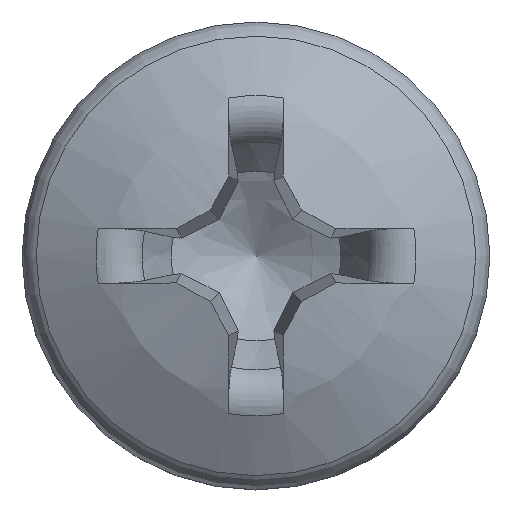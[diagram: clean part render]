
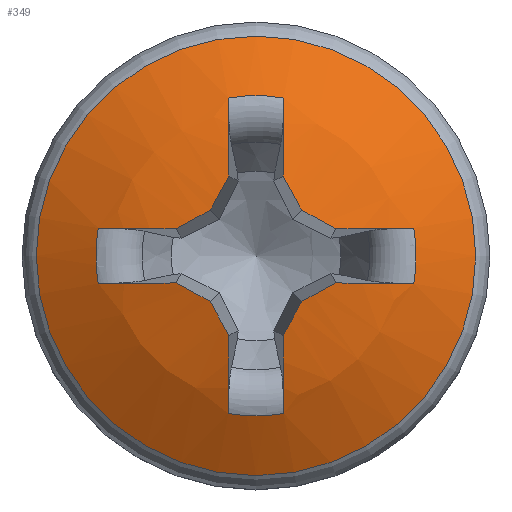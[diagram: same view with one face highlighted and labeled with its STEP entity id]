
A CAD part, top view. The second image highlights one B-rep face of the part: STEP entity #349.
In plain terms, the highlighted spherical face has radius 9.043 mm.
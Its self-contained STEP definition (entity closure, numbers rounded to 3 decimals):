
#312=SPHERICAL_SURFACE('',#1890,9.043);
#323=FACE_BOUND('',#580,.T.);
#324=FACE_BOUND('',#581,.T.);
#349=ADVANCED_FACE('',(#323,#324),#312,.T.);
#580=EDGE_LOOP('',(#787));
#581=EDGE_LOOP('',(#788,#789,#790,#791,#792,#793,#794,#795,#796,#797,#798,
#799,#800,#801,#802,#803,#804,#805,#806,#807));
#706=CIRCLE('',#1869,4.932);
#707=CIRCLE('',#1870,9.04);
#708=CIRCLE('',#1871,3.596);
#709=CIRCLE('',#1872,9.04);
#710=CIRCLE('',#1873,9.03);
#711=CIRCLE('',#1874,9.03);
#712=CIRCLE('',#1875,9.04);
#713=CIRCLE('',#1876,3.596);
#714=CIRCLE('',#1877,9.04);
#715=CIRCLE('',#1878,9.03);
#716=CIRCLE('',#1879,9.03);
#717=CIRCLE('',#1880,9.04);
#718=CIRCLE('',#1881,3.596);
#719=CIRCLE('',#1882,9.04);
#720=CIRCLE('',#1883,9.03);
#721=CIRCLE('',#1884,9.03);
#722=CIRCLE('',#1885,9.04);
#723=CIRCLE('',#1886,3.596);
#724=CIRCLE('',#1887,9.04);
#725=CIRCLE('',#1888,9.03);
#726=CIRCLE('',#1889,9.03);
#787=ORIENTED_EDGE('',*,*,#1491,.T.);
#788=ORIENTED_EDGE('',*,*,#1492,.F.);
#789=ORIENTED_EDGE('',*,*,#1493,.T.);
#790=ORIENTED_EDGE('',*,*,#1494,.F.);
#791=ORIENTED_EDGE('',*,*,#1495,.F.);
#792=ORIENTED_EDGE('',*,*,#1496,.F.);
#793=ORIENTED_EDGE('',*,*,#1497,.F.);
#794=ORIENTED_EDGE('',*,*,#1498,.T.);
#795=ORIENTED_EDGE('',*,*,#1499,.F.);
#796=ORIENTED_EDGE('',*,*,#1500,.F.);
#797=ORIENTED_EDGE('',*,*,#1501,.F.);
#798=ORIENTED_EDGE('',*,*,#1502,.F.);
#799=ORIENTED_EDGE('',*,*,#1503,.T.);
#800=ORIENTED_EDGE('',*,*,#1504,.F.);
#801=ORIENTED_EDGE('',*,*,#1505,.F.);
#802=ORIENTED_EDGE('',*,*,#1506,.F.);
#803=ORIENTED_EDGE('',*,*,#1507,.F.);
#804=ORIENTED_EDGE('',*,*,#1508,.T.);
#805=ORIENTED_EDGE('',*,*,#1509,.F.);
#806=ORIENTED_EDGE('',*,*,#1510,.F.);
#807=ORIENTED_EDGE('',*,*,#1511,.F.);
#1325=VERTEX_POINT('',#3994);
#1326=VERTEX_POINT('',#3996);
#1327=VERTEX_POINT('',#3997);
#1328=VERTEX_POINT('',#3999);
#1329=VERTEX_POINT('',#4001);
#1330=VERTEX_POINT('',#4003);
#1331=VERTEX_POINT('',#4005);
#1332=VERTEX_POINT('',#4007);
#1333=VERTEX_POINT('',#4009);
#1334=VERTEX_POINT('',#4011);
#1335=VERTEX_POINT('',#4013);
#1336=VERTEX_POINT('',#4015);
#1337=VERTEX_POINT('',#4017);
#1338=VERTEX_POINT('',#4019);
#1339=VERTEX_POINT('',#4021);
#1340=VERTEX_POINT('',#4023);
#1341=VERTEX_POINT('',#4025);
#1342=VERTEX_POINT('',#4027);
#1343=VERTEX_POINT('',#4029);
#1344=VERTEX_POINT('',#4031);
#1345=VERTEX_POINT('',#4033);
#1491=EDGE_CURVE('',#1325,#1325,#706,.T.);
#1492=EDGE_CURVE('',#1326,#1327,#707,.T.);
#1493=EDGE_CURVE('',#1326,#1328,#708,.T.);
#1494=EDGE_CURVE('',#1329,#1328,#709,.T.);
#1495=EDGE_CURVE('',#1330,#1329,#710,.T.);
#1496=EDGE_CURVE('',#1331,#1330,#711,.T.);
#1497=EDGE_CURVE('',#1332,#1331,#712,.T.);
#1498=EDGE_CURVE('',#1332,#1333,#713,.T.);
#1499=EDGE_CURVE('',#1334,#1333,#714,.T.);
#1500=EDGE_CURVE('',#1335,#1334,#715,.T.);
#1501=EDGE_CURVE('',#1336,#1335,#716,.T.);
#1502=EDGE_CURVE('',#1337,#1336,#717,.T.);
#1503=EDGE_CURVE('',#1337,#1338,#718,.T.);
#1504=EDGE_CURVE('',#1339,#1338,#719,.T.);
#1505=EDGE_CURVE('',#1340,#1339,#720,.T.);
#1506=EDGE_CURVE('',#1341,#1340,#721,.T.);
#1507=EDGE_CURVE('',#1342,#1341,#722,.T.);
#1508=EDGE_CURVE('',#1342,#1343,#723,.T.);
#1509=EDGE_CURVE('',#1344,#1343,#724,.T.);
#1510=EDGE_CURVE('',#1345,#1344,#725,.T.);
#1511=EDGE_CURVE('',#1327,#1345,#726,.T.);
#1869=AXIS2_PLACEMENT_3D('',#3993,#1954,#1955);
#1870=AXIS2_PLACEMENT_3D('',#3995,#1956,#1957);
#1871=AXIS2_PLACEMENT_3D('',#3998,#1958,#1959);
#1872=AXIS2_PLACEMENT_3D('',#4000,#1960,#1961);
#1873=AXIS2_PLACEMENT_3D('',#4002,#1962,#1963);
#1874=AXIS2_PLACEMENT_3D('',#4004,#1964,#1965);
#1875=AXIS2_PLACEMENT_3D('',#4006,#1966,#1967);
#1876=AXIS2_PLACEMENT_3D('',#4008,#1968,#1969);
#1877=AXIS2_PLACEMENT_3D('',#4010,#1970,#1971);
#1878=AXIS2_PLACEMENT_3D('',#4012,#1972,#1973);
#1879=AXIS2_PLACEMENT_3D('',#4014,#1974,#1975);
#1880=AXIS2_PLACEMENT_3D('',#4016,#1976,#1977);
#1881=AXIS2_PLACEMENT_3D('',#4018,#1978,#1979);
#1882=AXIS2_PLACEMENT_3D('',#4020,#1980,#1981);
#1883=AXIS2_PLACEMENT_3D('',#4022,#1982,#1983);
#1884=AXIS2_PLACEMENT_3D('',#4024,#1984,#1985);
#1885=AXIS2_PLACEMENT_3D('',#4026,#1986,#1987);
#1886=AXIS2_PLACEMENT_3D('',#4028,#1988,#1989);
#1887=AXIS2_PLACEMENT_3D('',#4030,#1990,#1991);
#1888=AXIS2_PLACEMENT_3D('',#4032,#1992,#1993);
#1889=AXIS2_PLACEMENT_3D('',#4034,#1994,#1995);
#1890=AXIS2_PLACEMENT_3D('',#4035,#1996,#1997);
#1954=DIRECTION('',(0.,0.,1.));
#1955=DIRECTION('',(-1.,0.,0.));
#1956=DIRECTION('',(-0.996,-0.035,0.087));
#1957=DIRECTION('',(0.087,0.,0.996));
#1958=DIRECTION('',(0.,0.,-1.));
#1959=DIRECTION('',(-1.,0.,0.));
#1960=DIRECTION('',(0.996,-0.035,0.087));
#1961=DIRECTION('',(0.087,0.,-0.996));
#1962=DIRECTION('',(0.879,0.467,0.1));
#1963=DIRECTION('',(-0.469,0.883,0.));
#1964=DIRECTION('',(0.467,0.879,0.1));
#1965=DIRECTION('',(-0.883,0.469,0.));
#1966=DIRECTION('',(-0.035,0.996,0.087));
#1967=DIRECTION('',(0.,-0.087,0.996));
#1968=DIRECTION('',(0.,0.,-1.));
#1969=DIRECTION('',(-1.,0.,0.));
#1970=DIRECTION('',(-0.035,-0.996,0.087));
#1971=DIRECTION('',(0.,-0.087,-0.996));
#1972=DIRECTION('',(0.467,-0.879,0.1));
#1973=DIRECTION('',(0.883,0.469,0.));
#1974=DIRECTION('',(0.879,-0.467,0.1));
#1975=DIRECTION('',(0.469,0.883,0.));
#1976=DIRECTION('',(0.996,0.035,0.087));
#1977=DIRECTION('',(0.087,0.,-0.996));
#1978=DIRECTION('',(0.,0.,-1.));
#1979=DIRECTION('',(-1.,0.,0.));
#1980=DIRECTION('',(-0.996,0.035,0.087));
#1981=DIRECTION('',(0.087,0.,0.996));
#1982=DIRECTION('',(-0.879,-0.467,0.1));
#1983=DIRECTION('',(0.469,-0.883,0.));
#1984=DIRECTION('',(-0.467,-0.879,0.1));
#1985=DIRECTION('',(0.883,-0.469,0.));
#1986=DIRECTION('',(0.035,-0.996,0.087));
#1987=DIRECTION('',(0.,-0.087,-0.996));
#1988=DIRECTION('',(0.,0.,-1.));
#1989=DIRECTION('',(-1.,0.,0.));
#1990=DIRECTION('',(0.035,0.996,0.087));
#1991=DIRECTION('',(0.,-0.087,0.996));
#1992=DIRECTION('',(-0.467,0.879,0.1));
#1993=DIRECTION('',(-0.883,-0.469,0.));
#1994=DIRECTION('',(-0.879,0.467,0.1));
#1995=DIRECTION('',(-0.469,-0.883,0.));
#1996=DIRECTION('',(0.,0.,1.));
#1997=DIRECTION('',(0.,1.,0.));
#3993=CARTESIAN_POINT('',(0.,0.,2.737));
#3994=CARTESIAN_POINT('',(-4.932,0.,2.737));
#3995=CARTESIAN_POINT('',(-0.226,-0.008,-4.823));
#3996=CARTESIAN_POINT('',(0.622,-3.542,3.454));
#3997=CARTESIAN_POINT('',(0.609,-1.79,4.));
#3998=CARTESIAN_POINT('',(0.,0.,3.454));
#3999=CARTESIAN_POINT('',(-0.622,-3.542,3.454));
#4000=CARTESIAN_POINT('',(0.226,-0.008,-4.823));
#4001=CARTESIAN_POINT('',(-0.609,-1.79,4.));
#4002=CARTESIAN_POINT('',(-0.426,-0.227,-4.892));
#4003=CARTESIAN_POINT('',(-1.025,-1.025,4.083));
#4004=CARTESIAN_POINT('',(-0.227,-0.426,-4.892));
#4005=CARTESIAN_POINT('',(-1.79,-0.609,4.));
#4006=CARTESIAN_POINT('',(-0.008,0.226,-4.823));
#4007=CARTESIAN_POINT('',(-3.542,-0.622,3.454));
#4008=CARTESIAN_POINT('',(0.,0.,3.454));
#4009=CARTESIAN_POINT('',(-3.542,0.622,3.454));
#4010=CARTESIAN_POINT('',(-0.008,-0.226,-4.823));
#4011=CARTESIAN_POINT('',(-1.79,0.609,4.));
#4012=CARTESIAN_POINT('',(-0.227,0.426,-4.892));
#4013=CARTESIAN_POINT('',(-1.025,1.025,4.083));
#4014=CARTESIAN_POINT('',(-0.426,0.227,-4.892));
#4015=CARTESIAN_POINT('',(-0.609,1.79,4.));
#4016=CARTESIAN_POINT('',(0.226,0.008,-4.823));
#4017=CARTESIAN_POINT('',(-0.622,3.542,3.454));
#4018=CARTESIAN_POINT('',(0.,0.,3.454));
#4019=CARTESIAN_POINT('',(0.622,3.542,3.454));
#4020=CARTESIAN_POINT('',(-0.226,0.008,-4.823));
#4021=CARTESIAN_POINT('',(0.609,1.79,4.));
#4022=CARTESIAN_POINT('',(0.426,0.227,-4.892));
#4023=CARTESIAN_POINT('',(1.025,1.025,4.083));
#4024=CARTESIAN_POINT('',(0.227,0.426,-4.892));
#4025=CARTESIAN_POINT('',(1.79,0.609,4.));
#4026=CARTESIAN_POINT('',(0.008,-0.226,-4.823));
#4027=CARTESIAN_POINT('',(3.542,0.622,3.454));
#4028=CARTESIAN_POINT('',(0.,0.,3.454));
#4029=CARTESIAN_POINT('',(3.542,-0.622,3.454));
#4030=CARTESIAN_POINT('',(0.008,0.226,-4.823));
#4031=CARTESIAN_POINT('',(1.79,-0.609,4.));
#4032=CARTESIAN_POINT('',(0.227,-0.426,-4.892));
#4033=CARTESIAN_POINT('',(1.025,-1.025,4.083));
#4034=CARTESIAN_POINT('',(0.426,-0.227,-4.892));
#4035=CARTESIAN_POINT('',(0.,0.,-4.843));
